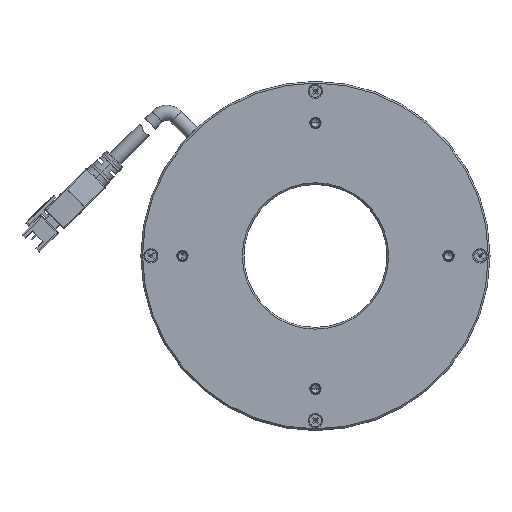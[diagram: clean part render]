
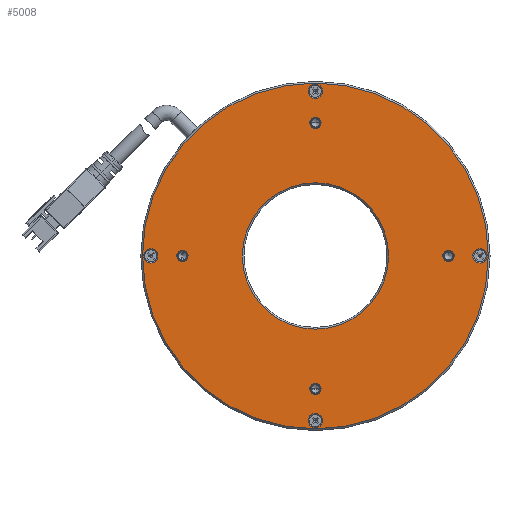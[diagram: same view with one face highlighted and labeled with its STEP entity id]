
A CAD part, top view. The second image highlights one B-rep face of the part: STEP entity #5008.
In plain terms, the highlighted planar face has unit normal (0, 0, 1).
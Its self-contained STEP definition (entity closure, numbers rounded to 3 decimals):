
#283=CARTESIAN_POINT('',(0.,0.,2.));
#284=DIRECTION('',(0.,0.,-1.));
#285=DIRECTION('',(0.,1.,0.));
#286=AXIS2_PLACEMENT_3D('',#283,#284,#285);
#288=CARTESIAN_POINT('',(0.,0.,2.));
#289=DIRECTION('',(0.,0.,-1.));
#290=DIRECTION('',(0.,-1.,0.));
#291=AXIS2_PLACEMENT_3D('',#288,#289,#290);
#293=CARTESIAN_POINT('',(-40.,0.,2.));
#294=DIRECTION('',(0.,0.,-1.));
#295=DIRECTION('',(0.,-1.,0.));
#296=AXIS2_PLACEMENT_3D('',#293,#294,#295);
#298=CARTESIAN_POINT('',(-40.,0.,2.));
#299=DIRECTION('',(0.,0.,-1.));
#300=DIRECTION('',(0.,1.,0.));
#301=AXIS2_PLACEMENT_3D('',#298,#299,#300);
#303=CARTESIAN_POINT('',(0.,-40.,2.));
#304=DIRECTION('',(0.,0.,-1.));
#305=DIRECTION('',(1.,0.,0.));
#306=AXIS2_PLACEMENT_3D('',#303,#304,#305);
#308=CARTESIAN_POINT('',(0.,-40.,2.));
#309=DIRECTION('',(0.,0.,-1.));
#310=DIRECTION('',(-1.,0.,0.));
#311=AXIS2_PLACEMENT_3D('',#308,#309,#310);
#313=CARTESIAN_POINT('',(40.,0.,2.));
#314=DIRECTION('',(0.,0.,-1.));
#315=DIRECTION('',(0.,1.,0.));
#316=AXIS2_PLACEMENT_3D('',#313,#314,#315);
#318=CARTESIAN_POINT('',(40.,0.,2.));
#319=DIRECTION('',(0.,0.,-1.));
#320=DIRECTION('',(0.,-1.,0.));
#321=AXIS2_PLACEMENT_3D('',#318,#319,#320);
#323=CARTESIAN_POINT('',(0.,40.,2.));
#324=DIRECTION('',(0.,0.,-1.));
#325=DIRECTION('',(-1.,0.,0.));
#326=AXIS2_PLACEMENT_3D('',#323,#324,#325);
#328=CARTESIAN_POINT('',(0.,40.,2.));
#329=DIRECTION('',(0.,0.,-1.));
#330=DIRECTION('',(1.,0.,0.));
#331=AXIS2_PLACEMENT_3D('',#328,#329,#330);
#333=CARTESIAN_POINT('',(0.,49.5,2.));
#334=DIRECTION('',(0.,0.,-1.));
#335=DIRECTION('',(0.,-1.,0.));
#336=AXIS2_PLACEMENT_3D('',#333,#334,#335);
#338=CARTESIAN_POINT('',(0.,49.5,2.));
#339=DIRECTION('',(0.,0.,-1.));
#340=DIRECTION('',(0.,1.,0.));
#341=AXIS2_PLACEMENT_3D('',#338,#339,#340);
#343=CARTESIAN_POINT('',(-49.5,0.,2.));
#344=DIRECTION('',(0.,0.,-1.));
#345=DIRECTION('',(1.,0.,0.));
#346=AXIS2_PLACEMENT_3D('',#343,#344,#345);
#348=CARTESIAN_POINT('',(-49.5,0.,2.));
#349=DIRECTION('',(0.,0.,-1.));
#350=DIRECTION('',(-1.,0.,0.));
#351=AXIS2_PLACEMENT_3D('',#348,#349,#350);
#353=CARTESIAN_POINT('',(0.,-49.5,2.));
#354=DIRECTION('',(0.,0.,-1.));
#355=DIRECTION('',(0.,1.,0.));
#356=AXIS2_PLACEMENT_3D('',#353,#354,#355);
#358=CARTESIAN_POINT('',(0.,-49.5,2.));
#359=DIRECTION('',(0.,0.,-1.));
#360=DIRECTION('',(0.,-1.,0.));
#361=AXIS2_PLACEMENT_3D('',#358,#359,#360);
#363=CARTESIAN_POINT('',(49.5,0.,2.));
#364=DIRECTION('',(0.,0.,-1.));
#365=DIRECTION('',(-1.,0.,0.));
#366=AXIS2_PLACEMENT_3D('',#363,#364,#365);
#368=CARTESIAN_POINT('',(49.5,0.,2.));
#369=DIRECTION('',(0.,0.,-1.));
#370=DIRECTION('',(1.,0.,0.));
#371=AXIS2_PLACEMENT_3D('',#368,#369,#370);
#373=CARTESIAN_POINT('',(0.,0.,2.));
#374=DIRECTION('',(0.,0.,1.));
#375=DIRECTION('',(0.,-1.,0.));
#376=AXIS2_PLACEMENT_3D('',#373,#374,#375);
#378=CARTESIAN_POINT('',(0.,0.,2.));
#379=DIRECTION('',(0.,0.,1.));
#380=DIRECTION('',(0.,1.,0.));
#381=AXIS2_PLACEMENT_3D('',#378,#379,#380);
#3658=CARTESIAN_POINT('',(0.,52.,2.));
#3659=CARTESIAN_POINT('',(0.,-52.,2.));
#3660=VERTEX_POINT('',#3658);
#3661=VERTEX_POINT('',#3659);
#3662=CARTESIAN_POINT('',(51.65,0.,2.));
#3663=CARTESIAN_POINT('',(47.35,0.,2.));
#3664=VERTEX_POINT('',#3662);
#3665=VERTEX_POINT('',#3663);
#3666=CARTESIAN_POINT('',(0.,-51.65,2.));
#3667=CARTESIAN_POINT('',(0.,-47.35,2.));
#3668=VERTEX_POINT('',#3666);
#3669=VERTEX_POINT('',#3667);
#3670=CARTESIAN_POINT('',(-51.65,0.,2.));
#3671=CARTESIAN_POINT('',(-47.35,0.,2.));
#3672=VERTEX_POINT('',#3670);
#3673=VERTEX_POINT('',#3671);
#3674=CARTESIAN_POINT('',(0.,51.65,2.));
#3675=CARTESIAN_POINT('',(0.,47.35,2.));
#3676=VERTEX_POINT('',#3674);
#3677=VERTEX_POINT('',#3675);
#3678=CARTESIAN_POINT('',(1.7,40.,2.));
#3679=CARTESIAN_POINT('',(-1.7,40.,2.));
#3680=VERTEX_POINT('',#3678);
#3681=VERTEX_POINT('',#3679);
#3682=CARTESIAN_POINT('',(40.,-1.7,2.));
#3683=CARTESIAN_POINT('',(40.,1.7,2.));
#3684=VERTEX_POINT('',#3682);
#3685=VERTEX_POINT('',#3683);
#3686=CARTESIAN_POINT('',(-1.7,-40.,2.));
#3687=CARTESIAN_POINT('',(1.7,-40.,2.));
#3688=VERTEX_POINT('',#3686);
#3689=VERTEX_POINT('',#3687);
#3690=CARTESIAN_POINT('',(-40.,1.7,2.));
#3691=CARTESIAN_POINT('',(-40.,-1.7,2.));
#3692=VERTEX_POINT('',#3690);
#3693=VERTEX_POINT('',#3691);
#3694=CARTESIAN_POINT('',(0.,-22.,2.));
#3695=CARTESIAN_POINT('',(0.,22.,2.));
#3696=VERTEX_POINT('',#3694);
#3697=VERTEX_POINT('',#3695);
#4945=CARTESIAN_POINT('',(0.,0.,2.));
#4946=DIRECTION('',(0.,0.,-1.));
#4947=DIRECTION('',(0.,-1.,0.));
#4948=AXIS2_PLACEMENT_3D('',#4945,#4946,#4947);
#4949=PLANE('',#4948);
#4951=ORIENTED_EDGE('',*,*,#4950,.F.);
#4953=ORIENTED_EDGE('',*,*,#4952,.F.);
#4954=EDGE_LOOP('',(#4951,#4953));
#4955=FACE_OUTER_BOUND('',#4954,.F.);
#4957=ORIENTED_EDGE('',*,*,#4956,.F.);
#4959=ORIENTED_EDGE('',*,*,#4958,.F.);
#4960=EDGE_LOOP('',(#4957,#4959));
#4961=FACE_BOUND('',#4960,.F.);
#4963=ORIENTED_EDGE('',*,*,#4962,.F.);
#4965=ORIENTED_EDGE('',*,*,#4964,.F.);
#4966=EDGE_LOOP('',(#4963,#4965));
#4967=FACE_BOUND('',#4966,.F.);
#4969=ORIENTED_EDGE('',*,*,#4968,.F.);
#4971=ORIENTED_EDGE('',*,*,#4970,.F.);
#4972=EDGE_LOOP('',(#4969,#4971));
#4973=FACE_BOUND('',#4972,.F.);
#4975=ORIENTED_EDGE('',*,*,#4974,.F.);
#4977=ORIENTED_EDGE('',*,*,#4976,.F.);
#4978=EDGE_LOOP('',(#4975,#4977));
#4979=FACE_BOUND('',#4978,.F.);
#4981=ORIENTED_EDGE('',*,*,#4980,.F.);
#4983=ORIENTED_EDGE('',*,*,#4982,.F.);
#4984=EDGE_LOOP('',(#4981,#4983));
#4985=FACE_BOUND('',#4984,.F.);
#4987=ORIENTED_EDGE('',*,*,#4986,.F.);
#4989=ORIENTED_EDGE('',*,*,#4988,.F.);
#4990=EDGE_LOOP('',(#4987,#4989));
#4991=FACE_BOUND('',#4990,.F.);
#4993=ORIENTED_EDGE('',*,*,#4992,.F.);
#4995=ORIENTED_EDGE('',*,*,#4994,.F.);
#4996=EDGE_LOOP('',(#4993,#4995));
#4997=FACE_BOUND('',#4996,.F.);
#4998=ORIENTED_EDGE('',*,*,#4908,.F.);
#4999=ORIENTED_EDGE('',*,*,#4926,.F.);
#5000=EDGE_LOOP('',(#4998,#4999));
#5001=FACE_BOUND('',#5000,.F.);
#5003=ORIENTED_EDGE('',*,*,#5002,.F.);
#5005=ORIENTED_EDGE('',*,*,#5004,.F.);
#5006=EDGE_LOOP('',(#5003,#5005));
#5007=FACE_BOUND('',#5006,.F.);
#5008=ADVANCED_FACE('',(#4955,#4961,#4967,#4973,#4979,#4985,#4991,#4997,#5001,
#5007),#4949,.F.);
#287=CIRCLE('',#286,22.);
#292=CIRCLE('',#291,22.);
#297=CIRCLE('',#296,1.7);
#302=CIRCLE('',#301,1.7);
#307=CIRCLE('',#306,1.7);
#312=CIRCLE('',#311,1.7);
#317=CIRCLE('',#316,1.7);
#322=CIRCLE('',#321,1.7);
#327=CIRCLE('',#326,1.7);
#332=CIRCLE('',#331,1.7);
#337=CIRCLE('',#336,2.15);
#342=CIRCLE('',#341,2.15);
#347=CIRCLE('',#346,2.15);
#352=CIRCLE('',#351,2.15);
#357=CIRCLE('',#356,2.15);
#362=CIRCLE('',#361,2.15);
#367=CIRCLE('',#366,2.15);
#372=CIRCLE('',#371,2.15);
#377=CIRCLE('',#376,52.);
#382=CIRCLE('',#381,52.);
#4908=EDGE_CURVE('',#3665,#3664,#367,.T.);
#4926=EDGE_CURVE('',#3664,#3665,#372,.T.);
#4950=EDGE_CURVE('',#3661,#3660,#377,.T.);
#4952=EDGE_CURVE('',#3660,#3661,#382,.T.);
#4956=EDGE_CURVE('',#3693,#3692,#297,.T.);
#4958=EDGE_CURVE('',#3692,#3693,#302,.T.);
#4962=EDGE_CURVE('',#3689,#3688,#307,.T.);
#4964=EDGE_CURVE('',#3688,#3689,#312,.T.);
#4968=EDGE_CURVE('',#3685,#3684,#317,.T.);
#4970=EDGE_CURVE('',#3684,#3685,#322,.T.);
#4974=EDGE_CURVE('',#3681,#3680,#327,.T.);
#4976=EDGE_CURVE('',#3680,#3681,#332,.T.);
#4980=EDGE_CURVE('',#3677,#3676,#337,.T.);
#4982=EDGE_CURVE('',#3676,#3677,#342,.T.);
#4986=EDGE_CURVE('',#3673,#3672,#347,.T.);
#4988=EDGE_CURVE('',#3672,#3673,#352,.T.);
#4992=EDGE_CURVE('',#3669,#3668,#357,.T.);
#4994=EDGE_CURVE('',#3668,#3669,#362,.T.);
#5002=EDGE_CURVE('',#3697,#3696,#287,.T.);
#5004=EDGE_CURVE('',#3696,#3697,#292,.T.);
